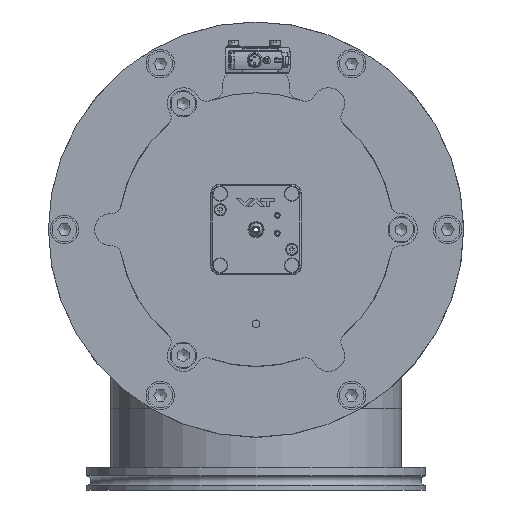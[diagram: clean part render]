
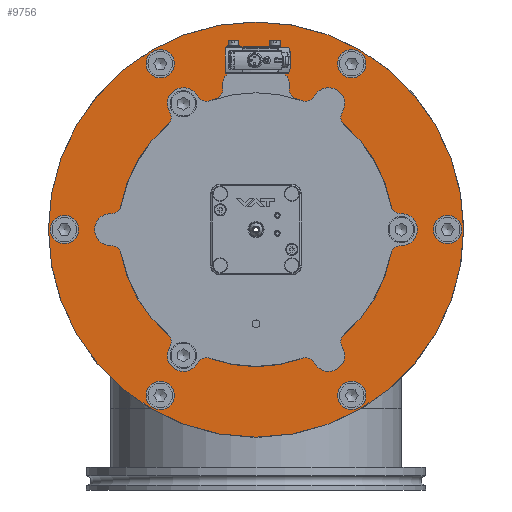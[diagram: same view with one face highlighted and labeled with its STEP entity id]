
A CAD part, left-side view. The second image highlights one B-rep face of the part: STEP entity #9756.
In plain terms, the highlighted planar face has unit normal (-1, 0, 0).
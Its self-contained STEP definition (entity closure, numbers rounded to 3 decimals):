
#9756=ADVANCED_FACE('BCT_REF_39971',(#12924,#12925,#12926,#12927,#12928,
#12929,#12930,#12931,#12932,#12933,#12934),#10987,.T.);
#10987=PLANE('',#29622);
#11721=CIRCLE('',#29611,3.4);
#11722=CIRCLE('',#29612,3.4);
#11723=CIRCLE('',#29613,3.4);
#11724=CIRCLE('',#29614,7.5);
#11725=CIRCLE('',#29615,7.5);
#11726=CIRCLE('',#29616,7.5);
#11727=CIRCLE('',#29617,7.5);
#11728=CIRCLE('',#29618,7.5);
#11729=CIRCLE('',#29619,7.5);
#11730=CIRCLE('',#29620,72.645);
#11731=CIRCLE('',#29621,110.);
#12924=FACE_BOUND('',#13709,.T.);
#12925=FACE_BOUND('',#13710,.T.);
#12926=FACE_BOUND('',#13711,.T.);
#12927=FACE_BOUND('',#13712,.T.);
#12928=FACE_BOUND('',#13713,.T.);
#12929=FACE_BOUND('',#13714,.T.);
#12930=FACE_BOUND('',#13715,.T.);
#12931=FACE_BOUND('',#13716,.T.);
#12932=FACE_BOUND('',#13717,.T.);
#12933=FACE_BOUND('',#13718,.T.);
#12934=FACE_BOUND('',#13719,.T.);
#13709=EDGE_LOOP('',(#15516));
#13710=EDGE_LOOP('',(#15517));
#13711=EDGE_LOOP('',(#15518));
#13712=EDGE_LOOP('',(#15519));
#13713=EDGE_LOOP('',(#15520));
#13714=EDGE_LOOP('',(#15521));
#13715=EDGE_LOOP('',(#15522));
#13716=EDGE_LOOP('',(#15523));
#13717=EDGE_LOOP('',(#15524));
#13718=EDGE_LOOP('',(#15525));
#13719=EDGE_LOOP('',(#15526));
#15516=ORIENTED_EDGE('',*,*,#23341,.T.);
#15517=ORIENTED_EDGE('',*,*,#23342,.T.);
#15518=ORIENTED_EDGE('',*,*,#23343,.T.);
#15519=ORIENTED_EDGE('',*,*,#23344,.T.);
#15520=ORIENTED_EDGE('',*,*,#23345,.T.);
#15521=ORIENTED_EDGE('',*,*,#23346,.T.);
#15522=ORIENTED_EDGE('',*,*,#23347,.T.);
#15523=ORIENTED_EDGE('',*,*,#23348,.T.);
#15524=ORIENTED_EDGE('',*,*,#23349,.T.);
#15525=ORIENTED_EDGE('',*,*,#23350,.T.);
#15526=ORIENTED_EDGE('',*,*,#23351,.T.);
#21276=VERTEX_POINT('',#39637);
#21277=VERTEX_POINT('',#39639);
#21278=VERTEX_POINT('',#39641);
#21279=VERTEX_POINT('',#39643);
#21280=VERTEX_POINT('',#39645);
#21281=VERTEX_POINT('',#39647);
#21282=VERTEX_POINT('',#39649);
#21283=VERTEX_POINT('',#39651);
#21284=VERTEX_POINT('',#39653);
#21285=VERTEX_POINT('',#39655);
#21286=VERTEX_POINT('',#39657);
#23341=EDGE_CURVE('',#21276,#21276,#11721,.T.);
#23342=EDGE_CURVE('',#21277,#21277,#11722,.T.);
#23343=EDGE_CURVE('',#21278,#21278,#11723,.T.);
#23344=EDGE_CURVE('',#21279,#21279,#11724,.T.);
#23345=EDGE_CURVE('',#21280,#21280,#11725,.T.);
#23346=EDGE_CURVE('BCT_REF_49088',#21281,#21281,#11726,.T.);
#23347=EDGE_CURVE('',#21282,#21282,#11727,.T.);
#23348=EDGE_CURVE('',#21283,#21283,#11728,.T.);
#23349=EDGE_CURVE('BCT_REF_49088',#21284,#21284,#11729,.T.);
#23350=EDGE_CURVE('',#21285,#21285,#11730,.T.);
#23351=EDGE_CURVE('',#21286,#21286,#11731,.T.);
#29611=AXIS2_PLACEMENT_3D('',#39636,#32337,#32338);
#29612=AXIS2_PLACEMENT_3D('',#39638,#32339,#32340);
#29613=AXIS2_PLACEMENT_3D('',#39640,#32341,#32342);
#29614=AXIS2_PLACEMENT_3D('',#39642,#32343,#32344);
#29615=AXIS2_PLACEMENT_3D('',#39644,#32345,#32346);
#29616=AXIS2_PLACEMENT_3D('',#39646,#32347,#32348);
#29617=AXIS2_PLACEMENT_3D('',#39648,#32349,#32350);
#29618=AXIS2_PLACEMENT_3D('',#39650,#32351,#32352);
#29619=AXIS2_PLACEMENT_3D('',#39652,#32353,#32354);
#29620=AXIS2_PLACEMENT_3D('',#39654,#32355,#32356);
#29621=AXIS2_PLACEMENT_3D('',#39656,#32357,#32358);
#29622=AXIS2_PLACEMENT_3D('',#39658,#32359,#32360);
#32337=DIRECTION('',(1.,0.,0.));
#32338=DIRECTION('',(0.,-0.866,0.5));
#32339=DIRECTION('',(1.,0.,0.));
#32340=DIRECTION('',(0.,0.866,0.5));
#32341=DIRECTION('',(1.,0.,0.));
#32342=DIRECTION('',(0.,0.,-1.));
#32343=DIRECTION('',(1.,0.,0.));
#32344=DIRECTION('',(0.,-0.866,-0.5));
#32345=DIRECTION('',(1.,0.,0.));
#32346=DIRECTION('',(0.,-0.866,0.5));
#32347=DIRECTION('',(1.,0.,0.));
#32348=DIRECTION('',(0.,0.,1.));
#32349=DIRECTION('',(1.,0.,0.));
#32350=DIRECTION('',(0.,0.866,0.5));
#32351=DIRECTION('',(1.,0.,0.));
#32352=DIRECTION('',(0.,0.866,-0.5));
#32353=DIRECTION('',(1.,0.,0.));
#32354=DIRECTION('',(0.,0.,-1.));
#32355=DIRECTION('',(1.,0.,0.));
#32356=DIRECTION('',(0.,0.,1.));
#32357=DIRECTION('',(-1.,0.,0.));
#32358=DIRECTION('',(0.,0.,1.));
#32359=DIRECTION('',(-1.,0.,0.));
#32360=DIRECTION('',(0.,0.,1.));
#39636=CARTESIAN_POINT('',(0.,-66.684,-38.5));
#39637=CARTESIAN_POINT('',(0.,-69.628,-36.8));
#39638=CARTESIAN_POINT('',(0.,0.,77.));
#39639=CARTESIAN_POINT('',(0.,2.944,78.7));
#39640=CARTESIAN_POINT('',(0.,66.684,-38.5));
#39641=CARTESIAN_POINT('',(0.,66.684,-41.9));
#39642=CARTESIAN_POINT('',(0.,87.902,-50.75));
#39643=CARTESIAN_POINT('',(0.,81.406,-54.5));
#39644=CARTESIAN_POINT('',(0.,0.,-101.5));
#39645=CARTESIAN_POINT('',(0.,-6.495,-97.75));
#39646=CARTESIAN_POINT('',(0.,-87.902,-50.75));
#39647=CARTESIAN_POINT('',(0.,-87.902,-43.25));
#39648=CARTESIAN_POINT('',(0.,-87.902,50.75));
#39649=CARTESIAN_POINT('',(0.,-81.406,54.5));
#39650=CARTESIAN_POINT('',(0.,0.,101.5));
#39651=CARTESIAN_POINT('',(0.,6.495,97.75));
#39652=CARTESIAN_POINT('',(0.,87.902,50.75));
#39653=CARTESIAN_POINT('',(0.,87.902,43.25));
#39654=CARTESIAN_POINT('',(0.,0.,0.));
#39655=CARTESIAN_POINT('',(0.,0.,72.645));
#39656=CARTESIAN_POINT('',(0.,0.,0.));
#39657=CARTESIAN_POINT('',(0.,0.,110.));
#39658=CARTESIAN_POINT('',(0.,72.145,0.));
